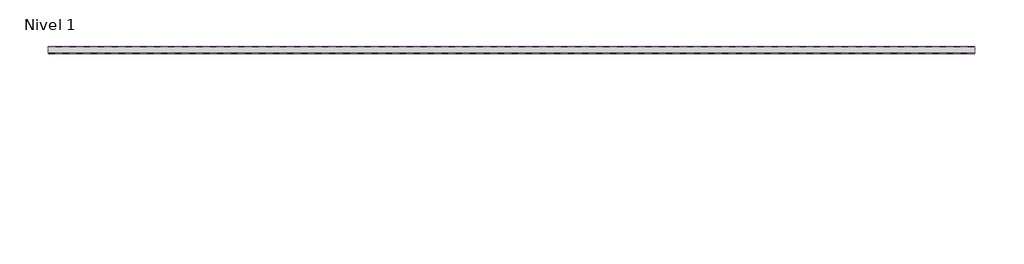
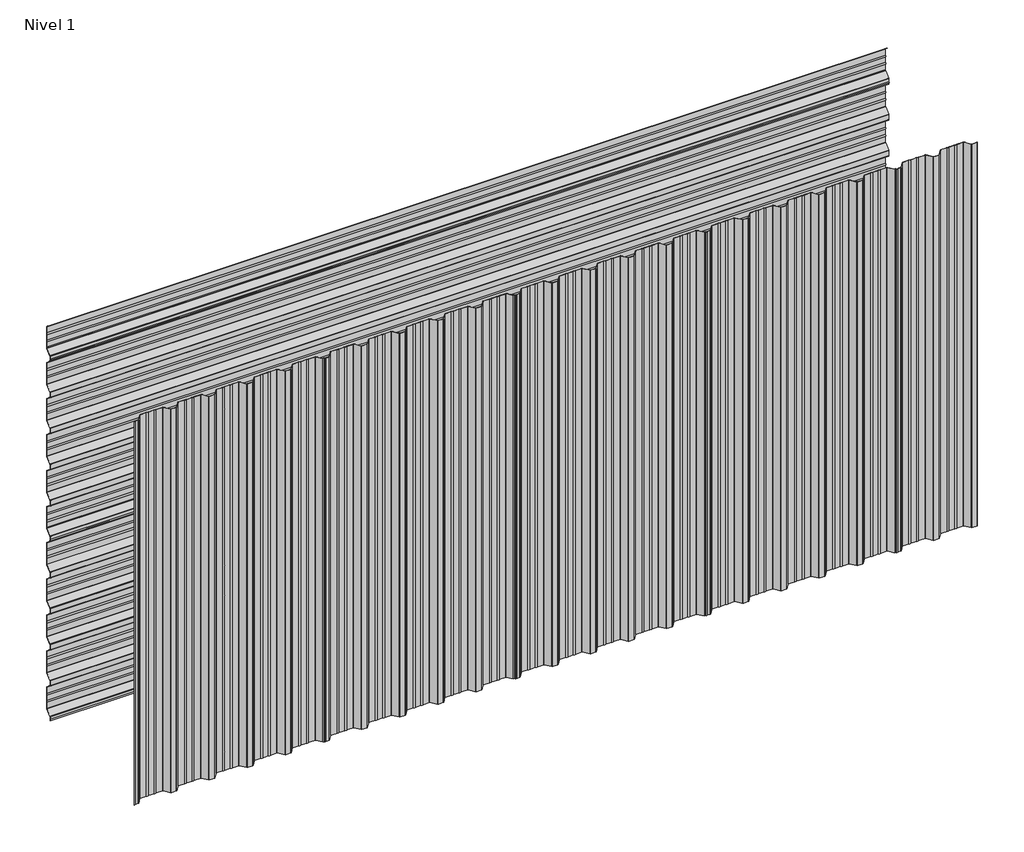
# One storey: 8 plates.
"""IFC4 building model written with IfcOpenShell, lengths in millimetres."""

from ifc_helpers import new_model, si_unit, origin, place, context, project, spatial, transform, mapped, element, save
from components import plate_2b1bface, plate_780f8bb1, plate_4608f2e8, plate_f07ee746

model = new_model("IFC4")

# Units and contexts
model_context = context("Model", 3, world=origin())
ifc_project = project(units=[si_unit("LENGTHUNIT", "METRE", prefix="MILLI")], contexts=[model_context])

# Site, building, storey
site = spatial("IfcSite", under=ifc_project)
building = spatial("IfcBuilding", under=site)
storey = spatial("IfcBuildingStorey", under=building, Name="Nivel 1", Elevation=0.0)

# Plates
placement = place(None, origin())
plate_shape = plate_2b1bface(model_context)
element("IfcPlate", 1, ObjectType="HIANSA - H20.F09.003-CHAPA PERFILADA FACHADA VERTICAL - MT32F - Panel de Muro Cortina : -", at=placement, inside=storey, context=model_context, shape_type="MappedRepresentation", body=[
    mapped(plate_shape, transform((4768.1436702, 17658.0269271, 0.0), x_axis=(1.0, 0.0, 0.0), y_axis=(0.0, 1.0, 0.0), z_axis=(0.0, 0.0, 1.0))),
])
element("IfcPlate", 2, ObjectType="HIANSA - H20.F09.003-CHAPA PERFILADA FACHADA VERTICAL - MT32F - Panel de Muro Cortina : -", at=placement, inside=storey, context=model_context, shape_type="MappedRepresentation", body=[
    mapped(plate_shape, transform((6768.1436703, 17658.0269271, 0.0), x_axis=(1.0, 0.0, 0.0), y_axis=(0.0, 1.0, 0.0), z_axis=(0.0, 0.0, 1.0))),
])
element("IfcPlate", 3, ObjectType="HIANSA - H20.F09.003-CHAPA PERFILADA FACHADA VERTICAL - MT32F - Panel de Muro Cortina : -", at=placement, inside=storey, context=model_context, shape_type="MappedRepresentation", body=[
    mapped(plate_shape, transform((7768.1436703, 17658.0269271, 0.0), x_axis=(1.0, 0.0, 0.0), y_axis=(0.0, 1.0, 0.0), z_axis=(0.0, 0.0, 1.0))),
])
element("IfcPlate", 4, ObjectType="HIANSA - H20.F09.003-CHAPA PERFILADA FACHADA VERTICAL - MT32F - Panel de Muro Cortina : -", at=placement, inside=storey, context=model_context, shape_type="MappedRepresentation", body=[
    mapped(plate_shape, transform((5768.1436703, 17658.0269271, 0.0), x_axis=(1.0, 0.0, 0.0), y_axis=(0.0, 1.0, 0.0), z_axis=(0.0, 0.0, 1.0))),
])
plate_2_shape = plate_780f8bb1(model_context)
element("IfcPlate", 5, ObjectType="HIANSA - H20.F09.003-CHAPA PERFILADA FACHADA VERTICAL - MT32F - Panel de Muro Cortina : -", at=placement, inside=storey, context=model_context, shape_type="MappedRepresentation", body=[
    mapped(plate_2_shape, transform((8468.1436702, 17658.0269271, 0.0), x_axis=(1.0, 0.0, 0.0), y_axis=(0.0, 1.0, 0.0), z_axis=(0.0, 0.0, 1.0))),
])
plate_3_shape = plate_4608f2e8(model_context)
element("IfcPlate", 6, ObjectType="HIANSA - H20.F09.003-CHAPA PERFILADA FACHADA HORIZONTAL - MT32F - Panel de Muro Cortina : -", at=placement, inside=storey, context=model_context, shape_type="MappedRepresentation", body=[
    mapped(plate_3_shape, transform((6468.14367, 18436.5269271, 0.0), x_axis=(1.0, 0.0, 0.0), y_axis=(0.0, 1.0, 0.0), z_axis=(0.0, 0.0, 1.0))),
])
element("IfcPlate", 7, ObjectType="HIANSA - H20.F09.003-CHAPA PERFILADA FACHADA HORIZONTAL - MT32F - Panel de Muro Cortina : -", at=placement, inside=storey, context=model_context, shape_type="MappedRepresentation", body=[
    mapped(plate_3_shape, transform((6468.14367, 18436.5269271, 1000.0), x_axis=(1.0, 0.0, 0.0), y_axis=(0.0, 1.0, 0.0), z_axis=(0.0, 0.0, 1.0))),
])
plate_4_shape = plate_f07ee746(model_context)
element("IfcPlate", 8, ObjectType="HIANSA - H20.F09.003-CHAPA PERFILADA FACHADA HORIZONTAL - MT32F - Panel de Muro Cortina : -", at=placement, inside=storey, context=model_context, shape_type="MappedRepresentation", body=[
    mapped(plate_4_shape, transform((6468.14367, 18436.5269271, 2000.0), x_axis=(1.0, 0.0, 0.0), y_axis=(0.0, 1.0, 0.0), z_axis=(0.0, 0.0, 1.0))),
])

save(model, "model.ifc")
